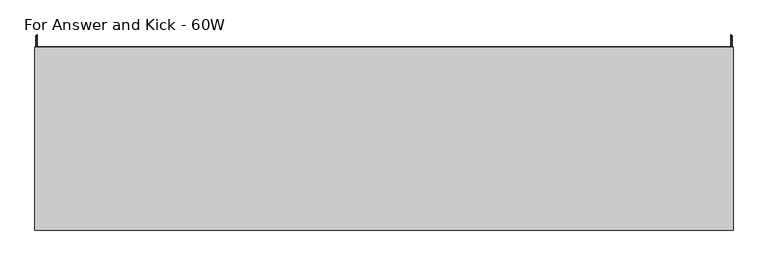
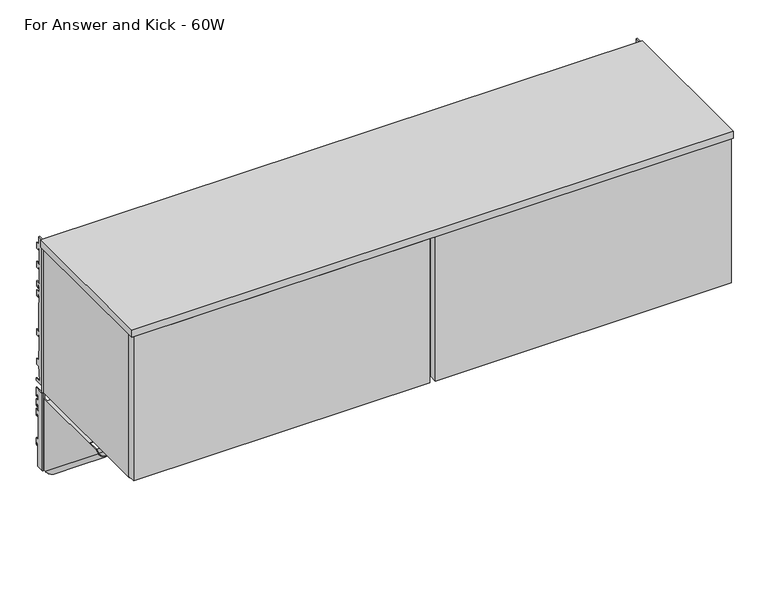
"""IFC4 building model written with IfcOpenShell, lengths in millimetres: furniture geometry, Steelcase - Universal Storage - In the Case Bin - Flat Front : For Answer and Kick - 60W."""

from ifc_helpers import new_model, si_unit, point, frame, frame_2d, origin, place, context, project, spatial, polyline, circle_curve, ellipse_curve, trimmed, segment, composite_curve, outline, extrude, faceted_brep, source, transform, mapped, element, save
from ifc_brep_helpers import plane_surface, cylinder_surface, revolved_surface, advanced_brep


def for_answer_and_kick_60w_798c4a98(model_context):
    return source(origin(), model_context, "Body", "SolidModel", [
        advanced_brep(
        [(4.0894, 24.9864881, 1247.9655), (4.0894, 1.1327479, 1247.9655), (4.0894, 1.1203386, 1040.9809), (4.0894, 17.3410881, 1040.9809), (4.0894, 17.3410881, 1101.1280822), (4.0894, 21.4050888, 1101.1280822), (4.0894, 21.4050888, 1094.7781064), (4.0894, 24.9864881, 1094.7781064), (4.0894, 24.9864881, 1113.0407271), (4.0894, 14.7756879, 1113.0407271), (4.0894, 14.7756879, 1179.6141345), (4.0894, 18.8396885, 1179.6141345), (4.0894, 18.8396885, 1173.264086), (4.0894, 24.9864881, 1173.264086), (4.0894, 24.9864881, 1191.5267068), (4.0894, 14.7756879, 1191.5267068), (4.0894, 14.7756879, 1205.7761277), (4.0894, 18.8396885, 1205.7761277), (4.0894, 18.8396885, 1199.4260793), (4.0894, 24.9864881, 1199.4260793), (4.0894, 24.9864881, 1217.6887), (4.0894, 14.7756879, 1217.6887), (4.0894, 14.7756879, 1231.9381209), (4.0894, 18.8396885, 1231.9381209), (4.0894, 18.8396885, 1225.5880725), (4.0894, 24.9864881, 1225.5880725), (2.1844, 24.9864881, 1247.9655), (2.1844, 24.9864881, 1225.5880725), (2.1844, 18.8396885, 1225.5880725), (2.1844, 18.8396885, 1231.9381209), (2.1844, 14.7756879, 1231.9381209), (2.1844, 14.7756879, 1217.6887), (2.1844, 24.9864881, 1217.6887), (2.1844, 24.9864881, 1199.4260793), (2.1844, 18.8396885, 1199.4260793), (2.1844, 18.8396885, 1205.7761277), (2.1844, 14.7756879, 1205.7761277), (2.1844, 14.7756879, 1191.5267068), (2.1844, 24.9864881, 1191.5267068), (2.1844, 24.9864881, 1173.264086), (2.1844, 18.8396885, 1173.264086), (2.1844, 18.8396885, 1179.6141345), (2.1844, 14.7756879, 1179.6141345), (2.1844, 14.7756879, 1113.0407271), (2.1844, 24.9864881, 1113.0407271), (2.1844, 24.9864881, 1094.7781064), (2.1844, 21.4050888, 1094.7781064), (2.1844, 21.4050888, 1101.1280822), (2.1844, 17.3410881, 1101.1280822), (2.1844, 17.3410881, 1040.9809), (2.1844, -0.7757522, 1040.9809), (2.1844, -0.7757522, 1247.9655), (4.4891598, -3.080512, 1247.9655), (8.1026, -3.080512, 1247.9655), (8.1026, -1.7838863, 1247.9655), (7.4942256, -1.175512, 1247.9655), (6.3852506, -1.175512, 1247.9655), (6.3852506, -1.175512, 1040.9809), (7.4942256, -1.175512, 1040.9809), (8.1026, -1.7838863, 1040.9809), (8.1026, -3.080512, 1040.9809), (4.4891598, -3.080512, 1040.9809)],
        [
            (0, 1),
            (1, 2),
            (2, 3),
            (3, 4),
            (4, 5),
            (5, 6),
            (6, 7),
            (7, 8),
            (8, 9),
            (9, 10),
            (10, 11),
            (11, 12),
            (12, 13),
            (13, 14),
            (14, 15),
            (15, 16),
            (16, 17),
            (17, 18),
            (18, 19),
            (19, 20),
            (20, 21),
            (21, 22),
            (22, 23),
            (23, 24),
            (24, 25),
            (25, 0),
            (26, 27),
            (27, 28),
            (28, 29),
            (29, 30),
            (30, 31),
            (31, 32),
            (32, 33),
            (33, 34),
            (34, 35),
            (35, 36),
            (36, 37),
            (37, 38),
            (38, 39),
            (39, 40),
            (40, 41),
            (41, 42),
            (42, 43),
            (43, 44),
            (44, 45),
            (45, 46),
            (46, 47),
            (47, 48),
            (48, 49),
            (49, 50),
            (50, 51),
            (51, 26),
            (0, 26),
            (51, 52, circle_curve(frame((4.4891598, -0.7757522, 1247.9655), z_axis=(0.0, 0.0, 1.0), x_axis=(1.0, 0.0, 0.0)), 2.3047598)),
            (52, 53),
            (53, 54),
            (54, 55, circle_curve(frame((7.4942256, -1.7838863, 1247.9655), z_axis=(0.0, 0.0, 1.0), x_axis=(1.0, 0.0, 0.0)), 0.6083744)),
            (55, 56),
            (56, 1, circle_curve(frame((6.3852506, 1.1203386, 1247.9655), z_axis=(0.0, 0.0, -1.0), x_axis=(1.0, 0.0, 0.0)), 2.2958506)),
            (2, 57, circle_curve(frame((6.3852506, 1.1203386, 1040.9809), z_axis=(0.0, 0.0, 1.0), x_axis=(1.0, 0.0, 0.0)), 2.2958506)),
            (57, 58),
            (58, 59, circle_curve(frame((7.4942256, -1.7838863, 1040.9809), z_axis=(0.0, 0.0, -1.0), x_axis=(1.0, 0.0, 0.0)), 0.6083744)),
            (59, 60),
            (60, 61),
            (61, 50, circle_curve(frame((4.4891598, -0.7757522, 1040.9809), z_axis=(0.0, 0.0, -1.0), x_axis=(1.0, 0.0, 0.0)), 2.3047598)),
            (49, 3),
            (48, 4),
            (47, 5),
            (46, 6),
            (45, 7),
            (44, 8),
            (43, 9),
            (42, 10),
            (41, 11),
            (40, 12),
            (39, 13),
            (38, 14),
            (37, 15),
            (36, 16),
            (35, 17),
            (34, 18),
            (33, 19),
            (32, 20),
            (31, 21),
            (30, 22),
            (29, 23),
            (28, 24),
            (27, 25),
            (61, 52),
            (60, 53),
            (59, 54),
            (58, 55),
            (57, 56),
        ],
        [
            plane_surface(frame((4.0894, 1.241405, 1247.9655), z_axis=(1.0, 0.0, 0.0), x_axis=(0.0, -1.0, 0.0))),
            plane_surface(frame((2.1844, 1.241405, 1247.9655), z_axis=(-1.0, 0.0, 0.0), x_axis=(0.0, 1.0, 0.0))),
            plane_surface(frame((4.0894, 24.9864881, 1247.9655), z_axis=(0.0, 0.0, 1.0), x_axis=(-1.0, 0.0, 0.0))),
            plane_surface(frame((4.0894, 1.1327479, 1040.9809), z_axis=(0.0, 0.0, -1.0), x_axis=(-1.0, 0.0, 0.0))),
            plane_surface(frame((4.0894, 17.3410881, 1040.9809), z_axis=(0.0, 1.0, 0.0), x_axis=(-1.0, 0.0, 0.0))),
            plane_surface(frame((4.0894, 17.3410881, 1101.1280822), z_axis=(0.0, 0.0, -1.0), x_axis=(-1.0, 0.0, 0.0))),
            plane_surface(frame((4.0894, 21.4050888, 1101.1280822), z_axis=(0.0, -1.0, 0.0), x_axis=(-1.0, 0.0, 0.0))),
            plane_surface(frame((4.0894, 21.4050888, 1094.7781064), z_axis=(0.0, 0.0, -1.0), x_axis=(-1.0, 0.0, 0.0))),
            plane_surface(frame((4.0894, 24.9864881, 1094.7781064), z_axis=(0.0, 1.0, 0.0), x_axis=(-1.0, 0.0, 0.0))),
            plane_surface(frame((4.0894, 24.9864881, 1113.0407271), z_axis=(0.0, 0.0, 1.0), x_axis=(-1.0, 0.0, 0.0))),
            plane_surface(frame((4.0894, 14.7756879, 1113.0407271), z_axis=(0.0, 1.0, 0.0), x_axis=(-1.0, 0.0, 0.0))),
            plane_surface(frame((4.0894, 14.7756879, 1179.6141345), z_axis=(0.0, 0.0, -1.0), x_axis=(-1.0, 0.0, 0.0))),
            plane_surface(frame((4.0894, 18.8396885, 1179.6141345), z_axis=(0.0, -1.0, 0.0), x_axis=(-1.0, 0.0, 0.0))),
            plane_surface(frame((4.0894, 18.8396885, 1173.264086), z_axis=(0.0, 0.0, -1.0), x_axis=(-1.0, 0.0, 0.0))),
            plane_surface(frame((4.0894, 24.9864881, 1173.264086), z_axis=(0.0, 1.0, 0.0), x_axis=(-1.0, 0.0, 0.0))),
            plane_surface(frame((4.0894, 24.9864881, 1191.5267068), z_axis=(0.0, 0.0, 1.0), x_axis=(-1.0, 0.0, 0.0))),
            plane_surface(frame((4.0894, 14.7756879, 1191.5267068), z_axis=(0.0, 1.0, 0.0), x_axis=(-1.0, 0.0, 0.0))),
            plane_surface(frame((4.0894, 14.7756879, 1205.7761277), z_axis=(0.0, 0.0, -1.0), x_axis=(-1.0, 0.0, 0.0))),
            plane_surface(frame((4.0894, 18.8396885, 1205.7761277), z_axis=(0.0, -1.0, 0.0), x_axis=(-1.0, 0.0, 0.0))),
            plane_surface(frame((4.0894, 18.8396885, 1199.4260793), z_axis=(0.0, 0.0, -1.0), x_axis=(-1.0, 0.0, 0.0))),
            plane_surface(frame((4.0894, 24.9864881, 1199.4260793), z_axis=(0.0, 1.0, 0.0), x_axis=(-1.0, 0.0, 0.0))),
            plane_surface(frame((4.0894, 24.9864881, 1217.6887), z_axis=(0.0, 0.0, 1.0), x_axis=(-1.0, 0.0, 0.0))),
            plane_surface(frame((4.0894, 14.7756879, 1217.6887), z_axis=(0.0, 1.0, 0.0), x_axis=(-1.0, 0.0, 0.0))),
            plane_surface(frame((4.0894, 14.7756879, 1231.9381209), z_axis=(0.0, 0.0, -1.0), x_axis=(-1.0, 0.0, 0.0))),
            plane_surface(frame((4.0894, 18.8396885, 1231.9381209), z_axis=(0.0, -1.0, 0.0), x_axis=(-1.0, 0.0, 0.0))),
            plane_surface(frame((4.0894, 18.8396885, 1225.5880725), z_axis=(0.0, 0.0, -1.0), x_axis=(-1.0, 0.0, 0.0))),
            plane_surface(frame((4.0894, 24.9864881, 1225.5880725), z_axis=(0.0, 1.0, 0.0), x_axis=(-1.0, 0.0, 0.0))),
            cylinder_surface(frame((4.4891598, -0.7757522, 1040.9809), z_axis=(0.0, 0.0, 1.0), x_axis=(1.0, 0.0, 0.0)), 2.3047598),
            plane_surface(frame((4.4891598, -3.080512, 1247.9655), z_axis=(0.0, -1.0, 0.0), x_axis=(0.0, 0.0, -1.0))),
            plane_surface(frame((8.1026, -3.080512, 1247.9655), z_axis=(1.0, 0.0, 0.0), x_axis=(0.0, 0.0, -1.0))),
            cylinder_surface(frame((7.4942256, -1.7838863, 1040.9809), z_axis=(0.0, 0.0, 1.0), x_axis=(1.0, 0.0, 0.0)), 0.6083744),
            plane_surface(frame((7.4942256, -1.175512, 1247.9655), z_axis=(0.0, 1.0, 0.0), x_axis=(0.0, 0.0, -1.0))),
            revolved_surface(polyline([(8.6811012, 1.1203386, 1040.9809), (8.6811012, 1.1203386, 1247.9655)]), (6.3852506, 1.1203386, 1040.9809), (0.0, 0.0, -1.0)),
        ],
        [
            (0, [[1, 2, 3, 4, 5, 6, 7, 8, 9, 10, 11, 12, 13, 14, 15, 16, 17, 18, 19, 20, 21, 22, 23, 24, 25, 26]]),
            (1, [[27, 28, 29, 30, 31, 32, 33, 34, 35, 36, 37, 38, 39, 40, 41, 42, 43, 44, 45, 46, 47, 48, 49, 50, 51, 52]]),
            (2, [[-1, 53, -52, 54, 55, 56, 57, 58, 59]]),
            (3, [[-3, 60, 61, 62, 63, 64, 65, -50, 66]]),
            (4, [[-4, -66, -49, 67]]),
            (5, [[-5, -67, -48, 68]]),
            (6, [[-6, -68, -47, 69]]),
            (7, [[-7, -69, -46, 70]]),
            (8, [[-8, -70, -45, 71]]),
            (9, [[-9, -71, -44, 72]]),
            (10, [[-10, -72, -43, 73]]),
            (11, [[-11, -73, -42, 74]]),
            (12, [[-12, -74, -41, 75]]),
            (13, [[-13, -75, -40, 76]]),
            (14, [[-14, -76, -39, 77]]),
            (15, [[-15, -77, -38, 78]]),
            (16, [[-16, -78, -37, 79]]),
            (17, [[-17, -79, -36, 80]]),
            (18, [[-18, -80, -35, 81]]),
            (19, [[-19, -81, -34, 82]]),
            (20, [[-20, -82, -33, 83]]),
            (21, [[-21, -83, -32, 84]]),
            (22, [[-22, -84, -31, 85]]),
            (23, [[-23, -85, -30, 86]]),
            (24, [[-24, -86, -29, 87]]),
            (25, [[-25, -87, -28, 88]]),
            (26, [[-26, -88, -27, -53]]),
            (27, [[-54, -51, -65, 89]]),
            (28, [[-55, -89, -64, 90]]),
            (29, [[-56, -90, -63, 91]]),
            (30, [[-57, -91, -62, 92]]),
            (31, [[-58, -92, -61, 93]]),
            (32, [[-59, -93, -60, -2]]),
        ],
    ),
        advanced_brep(
        [(1519.9106, 24.9864881, 1247.9655), (1519.9106, 24.9864881, 1225.5880725), (1519.9106, 18.8396885, 1225.5880725), (1519.9106, 18.8396885, 1231.9381209), (1519.9106, 14.7756879, 1231.9381209), (1519.9106, 14.7756879, 1217.6887), (1519.9106, 24.9864881, 1217.6887), (1519.9106, 24.9864881, 1199.4260793), (1519.9106, 18.8396885, 1199.4260793), (1519.9106, 18.8396885, 1205.7761277), (1519.9106, 14.7756879, 1205.7761277), (1519.9106, 14.7756879, 1191.5267068), (1519.9106, 24.9864881, 1191.5267068), (1519.9106, 24.9864881, 1173.264086), (1519.9106, 18.8396885, 1173.264086), (1519.9106, 18.8396885, 1179.6141345), (1519.9106, 14.7756879, 1179.6141345), (1519.9106, 14.7756879, 1113.0407271), (1519.9106, 24.9864881, 1113.0407271), (1519.9106, 24.9864881, 1094.7781064), (1519.9106, 21.4050888, 1094.7781064), (1519.9106, 21.4050888, 1101.1280822), (1519.9106, 17.3410881, 1101.1280822), (1519.9106, 17.3410881, 1040.9809), (1519.9106, 1.1327479, 1040.9809), (1519.9106, 1.1203386, 1247.9655), (1521.8156, -0.7757522, 1247.9655), (1521.8156, -0.7757522, 1040.9809), (1521.8156, 17.3410881, 1040.9809), (1521.8156, 17.3410881, 1101.1280822), (1521.8156, 21.4050888, 1101.1280822), (1521.8156, 21.4050888, 1094.7781064), (1521.8156, 24.9864881, 1094.7781064), (1521.8156, 24.9864881, 1113.0407271), (1521.8156, 14.7756879, 1113.0407271), (1521.8156, 14.7756879, 1179.6141345), (1521.8156, 18.8396885, 1179.6141345), (1521.8156, 18.8396885, 1173.264086), (1521.8156, 24.9864881, 1173.264086), (1521.8156, 24.9864881, 1191.5267068), (1521.8156, 14.7756879, 1191.5267068), (1521.8156, 14.7756879, 1205.7761277), (1521.8156, 18.8396885, 1205.7761277), (1521.8156, 18.8396885, 1199.4260793), (1521.8156, 24.9864881, 1199.4260793), (1521.8156, 24.9864881, 1217.6887), (1521.8156, 14.7756879, 1217.6887), (1521.8156, 14.7756879, 1231.9381209), (1521.8156, 18.8396885, 1231.9381209), (1521.8156, 18.8396885, 1225.5880725), (1521.8156, 24.9864881, 1225.5880725), (1521.8156, 24.9864881, 1247.9655), (1519.5108402, -3.080512, 1040.9809), (1516.1006, -3.080512, 1040.9809), (1516.1006, -1.7838863, 1040.9809), (1516.7089744, -1.175512, 1040.9809), (1517.6147494, -1.175512, 1040.9809), (1517.6147494, -1.175512, 1247.9655), (1516.7089744, -1.175512, 1247.9655), (1516.1006, -1.7838863, 1247.9655), (1516.1006, -3.080512, 1247.9655), (1519.5108402, -3.080512, 1247.9655)],
        [
            (0, 1),
            (1, 2),
            (2, 3),
            (3, 4),
            (4, 5),
            (5, 6),
            (6, 7),
            (7, 8),
            (8, 9),
            (9, 10),
            (10, 11),
            (11, 12),
            (12, 13),
            (13, 14),
            (14, 15),
            (15, 16),
            (16, 17),
            (17, 18),
            (18, 19),
            (19, 20),
            (20, 21),
            (21, 22),
            (22, 23),
            (23, 24),
            (24, 25),
            (25, 0),
            (26, 27),
            (27, 28),
            (28, 29),
            (29, 30),
            (30, 31),
            (31, 32),
            (32, 33),
            (33, 34),
            (34, 35),
            (35, 36),
            (36, 37),
            (37, 38),
            (38, 39),
            (39, 40),
            (40, 41),
            (41, 42),
            (42, 43),
            (43, 44),
            (44, 45),
            (45, 46),
            (46, 47),
            (47, 48),
            (48, 49),
            (49, 50),
            (50, 51),
            (51, 26),
            (0, 51),
            (50, 1),
            (49, 2),
            (48, 3),
            (47, 4),
            (46, 5),
            (45, 6),
            (44, 7),
            (43, 8),
            (42, 9),
            (41, 10),
            (40, 11),
            (39, 12),
            (38, 13),
            (37, 14),
            (36, 15),
            (35, 16),
            (34, 17),
            (33, 18),
            (32, 19),
            (31, 20),
            (30, 21),
            (29, 22),
            (28, 23),
            (27, 52, circle_curve(frame((1519.5108402, -0.7757522, 1040.9809), z_axis=(0.0, 0.0, -1.0), x_axis=(0.0, 1.0, 0.0)), 2.3047598)),
            (52, 53),
            (53, 54),
            (54, 55, circle_curve(frame((1516.7089744, -1.7838863, 1040.9809), z_axis=(0.0, 0.0, -1.0), x_axis=(0.0, 1.0, 0.0)), 0.6083744)),
            (55, 56),
            (56, 24, circle_curve(frame((1517.6147494, 1.1203386, 1040.9809), z_axis=(0.0, 0.0, 1.0), x_axis=(0.0, 1.0, 0.0)), 2.2958506)),
            (25, 57, circle_curve(frame((1517.6147494, 1.1203386, 1247.9655), z_axis=(0.0, 0.0, -1.0), x_axis=(0.0, 1.0, 0.0)), 2.2958506)),
            (57, 58),
            (58, 59, circle_curve(frame((1516.7089744, -1.7838863, 1247.9655), z_axis=(0.0, 0.0, 1.0), x_axis=(0.0, 1.0, 0.0)), 0.6083744)),
            (59, 60),
            (60, 61),
            (61, 26, circle_curve(frame((1519.5108402, -0.7757522, 1247.9655), z_axis=(0.0, 0.0, 1.0), x_axis=(0.0, 1.0, 0.0)), 2.3047598)),
            (56, 57),
            (55, 58),
            (54, 59),
            (53, 60),
            (52, 61),
        ],
        [
            plane_surface(frame((1519.9106, 24.9864881, 1247.9655), z_axis=(-1.0, 0.0, 0.0), x_axis=(0.0, 0.0, -1.0))),
            plane_surface(frame((1521.8156, 24.9864881, 1247.9655), z_axis=(1.0, 0.0, 0.0), x_axis=(0.0, 0.0, 1.0))),
            plane_surface(frame((1519.9106, 24.9864881, 1247.9655), z_axis=(0.0, 1.0, 0.0), x_axis=(1.0, 0.0, 0.0))),
            plane_surface(frame((1519.9106, 24.9864881, 1225.5880725), z_axis=(0.0, 0.0, -1.0), x_axis=(1.0, 0.0, 0.0))),
            plane_surface(frame((1519.9106, 18.8396885, 1225.5880725), z_axis=(0.0, -1.0, 0.0), x_axis=(1.0, 0.0, 0.0))),
            plane_surface(frame((1519.9106, 18.8396885, 1231.9381209), z_axis=(0.0, 0.0, -1.0), x_axis=(1.0, 0.0, 0.0))),
            plane_surface(frame((1519.9106, 14.7756879, 1231.9381209), z_axis=(0.0, 1.0, 0.0), x_axis=(1.0, 0.0, 0.0))),
            plane_surface(frame((1519.9106, 14.7756879, 1217.6887), z_axis=(0.0, 0.0, 1.0), x_axis=(1.0, 0.0, 0.0))),
            plane_surface(frame((1519.9106, 24.9864881, 1217.6887), z_axis=(0.0, 1.0, 0.0), x_axis=(1.0, 0.0, 0.0))),
            plane_surface(frame((1519.9106, 24.9864881, 1199.4260793), z_axis=(0.0, 0.0, -1.0), x_axis=(1.0, 0.0, 0.0))),
            plane_surface(frame((1519.9106, 18.8396885, 1199.4260793), z_axis=(0.0, -1.0, 0.0), x_axis=(1.0, 0.0, 0.0))),
            plane_surface(frame((1519.9106, 18.8396885, 1205.7761277), z_axis=(0.0, 0.0, -1.0), x_axis=(1.0, 0.0, 0.0))),
            plane_surface(frame((1519.9106, 14.7756879, 1205.7761277), z_axis=(0.0, 1.0, 0.0), x_axis=(1.0, 0.0, 0.0))),
            plane_surface(frame((1519.9106, 14.7756879, 1191.5267068), z_axis=(0.0, 0.0, 1.0), x_axis=(1.0, 0.0, 0.0))),
            plane_surface(frame((1519.9106, 24.9864881, 1191.5267068), z_axis=(0.0, 1.0, 0.0), x_axis=(1.0, 0.0, 0.0))),
            plane_surface(frame((1519.9106, 24.9864881, 1173.264086), z_axis=(0.0, 0.0, -1.0), x_axis=(1.0, 0.0, 0.0))),
            plane_surface(frame((1519.9106, 18.8396885, 1173.264086), z_axis=(0.0, -1.0, 0.0), x_axis=(1.0, 0.0, 0.0))),
            plane_surface(frame((1519.9106, 18.8396885, 1179.6141345), z_axis=(0.0, 0.0, -1.0), x_axis=(1.0, 0.0, 0.0))),
            plane_surface(frame((1519.9106, 14.7756879, 1179.6141345), z_axis=(0.0, 1.0, 0.0), x_axis=(1.0, 0.0, 0.0))),
            plane_surface(frame((1519.9106, 14.7756879, 1113.0407271), z_axis=(0.0, 0.0, 1.0), x_axis=(1.0, 0.0, 0.0))),
            plane_surface(frame((1519.9106, 24.9864881, 1113.0407271), z_axis=(0.0, 1.0, 0.0), x_axis=(1.0, 0.0, 0.0))),
            plane_surface(frame((1519.9106, 24.9864881, 1094.7781064), z_axis=(0.0, 0.0, -1.0), x_axis=(1.0, 0.0, 0.0))),
            plane_surface(frame((1519.9106, 21.4050888, 1094.7781064), z_axis=(0.0, -1.0, 0.0), x_axis=(1.0, 0.0, 0.0))),
            plane_surface(frame((1519.9106, 21.4050888, 1101.1280822), z_axis=(0.0, 0.0, -1.0), x_axis=(1.0, 0.0, 0.0))),
            plane_surface(frame((1519.9106, 17.3410881, 1101.1280822), z_axis=(0.0, 1.0, 0.0), x_axis=(1.0, 0.0, 0.0))),
            plane_surface(frame((1519.9106, 17.3410881, 1040.9809), z_axis=(0.0, 0.0, -1.0), x_axis=(1.0, 0.0, 0.0))),
            plane_surface(frame((1519.9106, 1.1327479, 1247.9655), z_axis=(0.0, 0.0, 1.0), x_axis=(1.0, 0.0, 0.0))),
            revolved_surface(polyline([(1517.6147494, 3.4161892, 1040.9809), (1517.6147494, 3.4161892, 1247.9655)]), (1517.6147494, 1.1203386, 1040.9809), (0.0, 0.0, -1.0)),
            plane_surface(frame((1517.6147494, -1.175512, 1247.9655), z_axis=(0.0, 1.0, 0.0), x_axis=(0.0, 0.0, -1.0))),
            cylinder_surface(frame((1516.7089744, -1.7838863, 1040.9809), z_axis=(0.0, 0.0, 1.0), x_axis=(0.0, 1.0, 0.0)), 0.6083744),
            plane_surface(frame((1516.1006, -1.7838863, 1247.9655), z_axis=(-1.0, 0.0, 0.0), x_axis=(0.0, 0.0, -1.0))),
            plane_surface(frame((1516.1006, -3.080512, 1247.9655), z_axis=(0.0, -1.0, 0.0), x_axis=(0.0, 0.0, -1.0))),
            cylinder_surface(frame((1519.5108402, -0.7757522, 1040.9809), z_axis=(0.0, 0.0, 1.0), x_axis=(0.0, 1.0, 0.0)), 2.3047598),
        ],
        [
            (0, [[1, 2, 3, 4, 5, 6, 7, 8, 9, 10, 11, 12, 13, 14, 15, 16, 17, 18, 19, 20, 21, 22, 23, 24, 25, 26]]),
            (1, [[27, 28, 29, 30, 31, 32, 33, 34, 35, 36, 37, 38, 39, 40, 41, 42, 43, 44, 45, 46, 47, 48, 49, 50, 51, 52]]),
            (2, [[-1, 53, -51, 54]]),
            (3, [[-2, -54, -50, 55]]),
            (4, [[-3, -55, -49, 56]]),
            (5, [[-4, -56, -48, 57]]),
            (6, [[-5, -57, -47, 58]]),
            (7, [[-6, -58, -46, 59]]),
            (8, [[-7, -59, -45, 60]]),
            (9, [[-8, -60, -44, 61]]),
            (10, [[-9, -61, -43, 62]]),
            (11, [[-10, -62, -42, 63]]),
            (12, [[-11, -63, -41, 64]]),
            (13, [[-12, -64, -40, 65]]),
            (14, [[-13, -65, -39, 66]]),
            (15, [[-14, -66, -38, 67]]),
            (16, [[-15, -67, -37, 68]]),
            (17, [[-16, -68, -36, 69]]),
            (18, [[-17, -69, -35, 70]]),
            (19, [[-18, -70, -34, 71]]),
            (20, [[-19, -71, -33, 72]]),
            (21, [[-20, -72, -32, 73]]),
            (22, [[-21, -73, -31, 74]]),
            (23, [[-22, -74, -30, 75]]),
            (24, [[-23, -75, -29, 76]]),
            (25, [[-24, -76, -28, 77, 78, 79, 80, 81, 82]]),
            (26, [[-26, 83, 84, 85, 86, 87, 88, -52, -53]]),
            (27, [[-83, -25, -82, 89]]),
            (28, [[-84, -89, -81, 90]]),
            (29, [[-85, -90, -80, 91]]),
            (30, [[-86, -91, -79, 92]]),
            (31, [[-87, -92, -78, 93]]),
            (32, [[-88, -93, -77, -27]]),
        ],
    ),
        advanced_brep(
        [(1494.9424, -230.0833372, 1233.8431), (1494.9424, 1.1327479, 1046.6079738), (1492.8342, 1.1327479, 1046.6079738), (1492.8342, -230.0833372, 1233.8431), (1492.8342, 1.1327479, 1040.9809), (1492.8342, -7.7654502, 1040.9809), (1492.8342, -240.6555763, 1229.5716381), (1516.1006, -7.7654502, 1040.9809), (1516.1006, -240.6555763, 1229.5716381), (1516.1006, 1.1327479, 1040.9809), (1516.1006, 1.1327479, 1046.6079738), (1516.1006, -3.080512, 1050.019805), (1516.1006, -3.080512, 1233.8431), (1516.1006, -230.0833372, 1233.8431), (1513.9924009, 1.1327479, 1046.6079738), (1513.9924009, -3.080512, 1050.019805), (1513.9924009, -7.7654502, 1040.9809), (1513.9924009, -240.6555763, 1229.5716381), (1513.9924009, -230.0833372, 1233.8431), (1513.9924009, -200.311512, 1233.8431), (1513.9924009, -200.311512, 1233.0049163), (1513.9924009, -14.0787123, 1233.0049163), (1513.9924009, -14.0787123, 1233.8431), (1513.9924009, -3.080512, 1233.8431), (1513.9924009, 1.1327479, 1040.9809), (1494.9424, -7.7654502, 1040.9809), (1494.9424, -240.6555763, 1229.5716381), (1494.9424, 1.1327479, 1040.9809), (1485.0617978, -200.311512, 1233.8431), (1485.0617978, -200.311512, 1252.2581016), (1484.2236, -200.311512, 1252.2581016), (1484.2236, -200.311512, 1233.0049163), (1484.2236, -82.5825138, 1252.2581016), (1485.0617978, -82.5825138, 1252.2581016), (1485.0617978, -82.5825138, 1233.8431), (1484.2236, -82.5825138, 1233.8431), (1484.2236, -14.0787123, 1233.8431), (1484.2236, -14.0787123, 1233.0049163)],
        [
            (0, 1),
            (1, 2),
            (2, 3),
            (3, 0),
            (2, 4),
            (4, 5),
            (5, 6),
            (6, 3),
            (5, 7, ellipse_curve(frame((1504.4674, -7.7654502, 1040.9809), z_axis=(0.0, 0.0, 1.0), x_axis=(0.0, -1.0, 0.0)), 18.4853359, 11.6332)),
            (7, 8),
            (8, 6, ellipse_curve(frame((1504.4674, -240.6555763, 1229.5716381), z_axis=(0.0, 0.374606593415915, -0.9271838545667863), x_axis=(0.0, -0.9271838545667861, -0.3746065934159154)), 13.3008659, 11.6332)),
            (7, 9),
            (9, 10),
            (10, 11),
            (11, 12),
            (12, 13),
            (13, 8),
            (10, 14),
            (14, 15),
            (15, 11),
            (16, 17),
            (17, 18),
            (18, 19),
            (19, 20),
            (20, 21),
            (21, 22),
            (22, 23),
            (23, 15),
            (14, 24),
            (24, 16),
            (16, 25, ellipse_curve(frame((1504.4674005, -7.7654502, 1040.9809), z_axis=(0.0, 0.0, -1.0), x_axis=(0.0, 1.0, 0.0)), 15.135374, 9.5250005)),
            (25, 26),
            (26, 17, ellipse_curve(frame((1504.4674005, -240.6555763, 1229.5716381), z_axis=(0.0, -0.374606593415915, 0.9271838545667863), x_axis=(0.0, 0.9271838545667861, 0.3746065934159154)), 10.8904475, 9.5250005)),
            (0, 26),
            (25, 27),
            (27, 1),
            (13, 18),
            (24, 9),
            (4, 27),
            (28, 29),
            (29, 30),
            (30, 31),
            (31, 20),
            (19, 28),
            (32, 33),
            (33, 34),
            (34, 35),
            (35, 32),
            (35, 36),
            (36, 37),
            (37, 31),
            (30, 32),
            (28, 34),
            (33, 29),
            (36, 22),
            (21, 37),
            (12, 23),
        ],
        [
            plane_surface(frame((1494.9424, -241.2702093, 1242.902052), z_axis=(0.0, 0.6293204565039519, 0.7771459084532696), x_axis=(0.0, 0.7771459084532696, -0.6293204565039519))),
            plane_surface(frame((1492.8342, -241.2702093, 1242.902052), z_axis=(-1.0, 0.0, 0.0), x_axis=(0.0, 0.7771459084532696, -0.6293204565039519))),
            cylinder_surface(frame((1504.4674, 5.728998, 1030.0533094), z_axis=(0.0, -0.7771459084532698, 0.6293204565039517), x_axis=(0.0, 0.6293204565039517, 0.7771459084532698)), 11.6332),
            plane_surface(frame((1516.1006, -247.5463438, 1235.1516726), z_axis=(1.0, 0.0, 0.0), x_axis=(0.0, 0.7771459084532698, -0.6293204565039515))),
            plane_surface(frame((1516.1006, -241.2702093, 1242.902052), z_axis=(0.0, 0.6293204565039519, 0.7771459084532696), x_axis=(0.0, 0.7771459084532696, -0.6293204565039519))),
            plane_surface(frame((1513.9924009, -241.2702093, 1242.902052), z_axis=(-1.0, 0.0, 0.0), x_axis=(0.0, 0.7771459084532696, -0.6293204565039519))),
            revolved_surface(polyline([(1504.4674005, 7.3699238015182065, 1040.980900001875), (1504.4674005, -238.76446812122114, 1240.2966349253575)]), (1504.4674005, 5.728998, 1030.0533094), (0.0, 0.7771459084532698, -0.6293204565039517)),
            plane_surface(frame((1494.9424, -247.5463438, 1235.1516726), z_axis=(1.0, 0.0, 0.0), x_axis=(0.0, 0.7771459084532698, -0.6293204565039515))),
            plane_surface(frame((1524.0, -257.2236519, 1222.8777011), z_axis=(0.0, -0.374606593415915, 0.9271838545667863), x_axis=(-1.0, 0.0, 0.0))),
            plane_surface(frame((1524.0, 1.1327479, 1040.9809), z_axis=(0.0, 0.0, -1.0), x_axis=(-1.0, 0.0, 0.0))),
            plane_surface(frame((1524.0, 1.1327479, 1053.6809), z_axis=(0.0, 1.0, 0.0), x_axis=(-1.0, 0.0, 0.0))),
            plane_surface(frame((1484.2236, -200.311512, 1252.2581016), z_axis=(0.0, -1.0, 0.0), x_axis=(0.0, 0.0, -1.0))),
            plane_surface(frame((1484.2236, -82.5825138, 1252.2581016), z_axis=(0.0, 1.0, 0.0), x_axis=(0.0, 0.0, 1.0))),
            plane_surface(frame((1484.2236, -200.311512, 1252.2581016), z_axis=(-1.0, 0.0, 0.0), x_axis=(0.0, 1.0, 0.0))),
            plane_surface(frame((1485.0617978, -200.311512, 1233.8431), z_axis=(1.0, 0.0, 0.0), x_axis=(0.0, 1.0, 0.0))),
            plane_surface(frame((1485.0617978, -200.311512, 1252.2581016), z_axis=(0.0, 0.0, 1.0), x_axis=(0.0, 1.0, 0.0))),
            plane_surface(frame((1484.2236, -14.0787123, 1233.8431), z_axis=(0.0, 1.0, 0.0), x_axis=(0.0, 0.0, 1.0))),
            plane_surface(frame((1484.2236, -200.311512, 1233.0049163), z_axis=(0.0, 0.0, -1.0), x_axis=(0.0, 1.0, 0.0))),
            plane_surface(frame((1516.1006, -200.311512, 1233.8431), z_axis=(0.0, 0.0, 1.0), x_axis=(0.0, 1.0, 0.0))),
            plane_surface(frame((1516.1006, -3.080512, 1050.019805), z_axis=(0.0, 1.0, 0.0), x_axis=(-1.0, 0.0, 0.0))),
        ],
        [
            (0, [[1, 2, 3, 4]]),
            (1, [[-3, 5, 6, 7, 8]]),
            (2, [[-7, 9, 10, 11]]),
            (3, [[-10, 12, 13, 14, 15, 16, 17]]),
            (4, [[18, 19, 20, -14]]),
            (5, [[21, 22, 23, 24, 25, 26, 27, 28, -19, 29, 30]]),
            (6, [[-21, 31, 32, 33]]),
            (7, [[-1, 34, -32, 35, 36]]),
            (8, [[-4, -8, -11, -17, 37, -22, -33, -34]]),
            (9, [[38, -12, -9, -6, 39, -35, -31, -30]]),
            (10, [[-38, -29, -18, -13]]),
            (10, [[-39, -5, -2, -36]]),
            (11, [[40, 41, 42, 43, -24, 44]]),
            (12, [[45, 46, 47, 48]]),
            (13, [[-48, 49, 50, 51, -42, 52]]),
            (14, [[-40, 53, -46, 54]]),
            (15, [[-41, -54, -45, -52]]),
            (16, [[-50, 55, -26, 56]]),
            (17, [[-51, -56, -25, -43]]),
            (18, [[57, -27, -55, -49, -47, -53, -44, -23, -37, -16]]),
            (19, [[-15, -20, -28, -57]]),
        ],
    ),
        advanced_brep(
        [(8.1026, -3.080512, 1050.019805), (8.1026, -3.080512, 1233.8431), (8.1026, -14.0787123, 1233.8431), (8.1026, -14.0787123, 1233.0049163), (8.1026, -200.311512, 1233.0049163), (8.1026, -200.311512, 1233.8431), (8.1026, -230.0833372, 1233.8431), (8.1026, -240.6555763, 1229.5716381), (8.1026, -7.7654502, 1040.9809), (8.1026, 1.1327479, 1040.9809), (8.1026, 1.1327479, 1046.6079738), (5.9944, -3.080512, 1233.8431), (5.9944, -3.080512, 1050.019805), (5.9944, 1.1327479, 1046.6079738), (5.9944, 1.1327479, 1040.9809), (5.9944, -7.7654502, 1040.9809), (5.9944, -240.6555763, 1229.5716381), (5.9944, -230.0833372, 1233.8431), (39.5732022, -200.311512, 1233.8431), (39.5732022, -82.5825138, 1233.8431), (40.4114, -82.5825138, 1233.8431), (40.4114, -14.0787123, 1233.8431), (29.2608, -7.7654502, 1040.9809), (29.2608, -240.6555763, 1229.5716381), (29.2608, 1.1327479, 1040.9809), (29.2608, 1.1327479, 1046.6079738), (29.2608, -230.0833372, 1233.8431), (27.1526009, 1.1327479, 1046.6079738), (27.1526009, -230.0833372, 1233.8431), (27.1526009, 1.1327479, 1040.9809), (27.1526009, -7.7654502, 1040.9809), (27.1526009, -240.6555763, 1229.5716381), (40.4114, -200.311512, 1233.0049163), (40.4114, -200.311512, 1252.2581016), (39.5732022, -200.311512, 1252.2581016), (40.4114, -14.0787123, 1233.0049163), (40.4114, -82.5825138, 1252.2581016), (39.5732022, -82.5825138, 1252.2581016)],
        [
            (0, 1),
            (1, 2),
            (2, 3),
            (3, 4),
            (4, 5),
            (5, 6),
            (6, 7),
            (7, 8),
            (8, 9),
            (9, 10),
            (10, 0),
            (11, 12),
            (12, 13),
            (13, 14),
            (14, 15),
            (15, 16),
            (16, 17),
            (17, 11),
            (17, 6),
            (5, 18),
            (18, 19),
            (19, 20),
            (20, 21),
            (21, 2),
            (1, 11),
            (0, 12),
            (10, 13),
            (15, 22, ellipse_curve(frame((17.6276, -7.7654502, 1040.9809), z_axis=(0.0, 0.0, 1.0), x_axis=(0.0, -1.0, 0.0)), 18.4853359, 11.6332)),
            (22, 23),
            (23, 16, ellipse_curve(frame((17.6276, -240.6555763, 1229.5716381), z_axis=(0.0, 0.374606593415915, -0.9271838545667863), x_axis=(0.0, -0.9271838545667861, -0.3746065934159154)), 13.3008659, 11.6332)),
            (22, 24),
            (24, 25),
            (25, 26),
            (26, 23),
            (25, 27),
            (27, 28),
            (28, 26),
            (27, 29),
            (29, 30),
            (30, 31),
            (31, 28),
            (7, 31, ellipse_curve(frame((17.6276005, -240.6555763, 1229.5716381), z_axis=(0.0, -0.374606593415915, 0.9271838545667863), x_axis=(0.0, 0.9271838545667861, 0.3746065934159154)), 10.8904475, 9.5250005)),
            (30, 8, ellipse_curve(frame((17.6276005, -7.7654502, 1040.9809), z_axis=(0.0, 0.0, -1.0), x_axis=(0.0, 1.0, 0.0)), 15.135374, 9.5250005)),
            (14, 9),
            (29, 24),
            (4, 32),
            (32, 33),
            (33, 34),
            (34, 18),
            (21, 35),
            (35, 3),
            (35, 32),
            (20, 36),
            (36, 33),
            (19, 37),
            (37, 36),
            (37, 34),
        ],
        [
            plane_surface(frame((8.1026, -230.0833372, 1233.8431), z_axis=(1.0, 0.0, 0.0), x_axis=(0.0, -1.0, 0.0))),
            plane_surface(frame((5.9944, -230.0833372, 1233.8431), z_axis=(-1.0, 0.0, 0.0), x_axis=(0.0, 1.0, 0.0))),
            plane_surface(frame((8.1026, -3.080512, 1233.8431), z_axis=(0.0, 0.0, 1.0), x_axis=(-1.0, 0.0, 0.0))),
            plane_surface(frame((8.1026, -3.080512, 1050.019805), z_axis=(0.0, 1.0, 0.0), x_axis=(-1.0, 0.0, 0.0))),
            plane_surface(frame((8.1026, -241.2702093, 1242.902052), z_axis=(0.0, 0.6293204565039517, 0.7771459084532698), x_axis=(0.0, 0.7771459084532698, -0.6293204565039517))),
            cylinder_surface(frame((17.6276, 5.728998, 1030.0533094), z_axis=(0.0, -0.7771459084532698, 0.6293204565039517), x_axis=(1.0, 0.0, 0.0)), 11.6332),
            plane_surface(frame((29.2608, -247.5463438, 1235.1516726), z_axis=(1.0000000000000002, 0.0, 0.0), x_axis=(0.0, 0.7771459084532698, -0.6293204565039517))),
            plane_surface(frame((29.2608, -241.2702093, 1242.902052), z_axis=(0.0, 0.6293204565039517, 0.7771459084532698), x_axis=(0.0, 0.7771459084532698, -0.6293204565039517))),
            plane_surface(frame((27.1526009, -241.2702093, 1242.902052), z_axis=(-1.0000000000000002, 0.0, 0.0), x_axis=(0.0, 0.7771459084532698, -0.6293204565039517))),
            revolved_surface(polyline([(27.152601, 1.375646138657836, 1033.5785848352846), (27.152601, -244.75874578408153, 1232.8943197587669)]), (17.6276005, 5.728998, 1030.0533094), (0.0, 0.7771459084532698, -0.6293204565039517)),
            plane_surface(frame((1524.0, -257.2236519, 1222.8777011), z_axis=(0.0, -0.374606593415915, 0.9271838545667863), x_axis=(-1.0, 0.0, 0.0))),
            plane_surface(frame((1524.0, 1.1327479, 1040.9809), z_axis=(0.0, 0.0, -1.0), x_axis=(-1.0, 0.0, 0.0))),
            plane_surface(frame((1524.0, 1.1327479, 1053.6809), z_axis=(0.0, 1.0, 0.0), x_axis=(-1.0, 0.0, 0.0))),
            plane_surface(frame((10.5986151, -200.311512, 1233.8431), z_axis=(0.0, -1.0, 0.0), x_axis=(-1.0, 0.0, 0.0))),
            plane_surface(frame((10.5986151, -14.0787123, 1233.8431), z_axis=(0.0, 1.0, 0.0), x_axis=(1.0, 0.0, 0.0))),
            plane_surface(frame((8.1026, -200.311512, 1233.0049163), z_axis=(0.0, 0.0, -1.0), x_axis=(0.0, 1.0, 0.0))),
            plane_surface(frame((40.4114, -200.311512, 1233.0049163), z_axis=(1.0, 0.0, 0.0), x_axis=(0.0, 1.0, 0.0))),
            plane_surface(frame((38.1509305, -82.5825138, 1252.2581016), z_axis=(0.0, 1.0, 0.0), x_axis=(1.0, 0.0, 0.0))),
            plane_surface(frame((40.4114, -200.311512, 1252.2581016), z_axis=(0.0, 0.0, 1.0), x_axis=(0.0, 1.0, 0.0))),
            plane_surface(frame((39.5732022, -200.311512, 1252.2581016), z_axis=(-1.0, 0.0, 0.0), x_axis=(0.0, 1.0, 0.0))),
        ],
        [
            (0, [[1, 2, 3, 4, 5, 6, 7, 8, 9, 10, 11]]),
            (1, [[12, 13, 14, 15, 16, 17, 18]]),
            (2, [[-18, 19, -6, 20, 21, 22, 23, 24, -2, 25]]),
            (3, [[-1, 26, -12, -25]]),
            (4, [[-26, -11, 27, -13]]),
            (5, [[-16, 28, 29, 30]]),
            (6, [[-29, 31, 32, 33, 34]]),
            (7, [[-33, 35, 36, 37]]),
            (8, [[-36, 38, 39, 40, 41]]),
            (9, [[-8, 42, -40, 43]]),
            (10, [[-7, -19, -17, -30, -34, -37, -41, -42]]),
            (11, [[44, -9, -43, -39, 45, -31, -28, -15]]),
            (12, [[-44, -14, -27, -10]]),
            (12, [[-45, -38, -35, -32]]),
            (13, [[46, 47, 48, 49, -20, -5]]),
            (14, [[50, 51, -3, -24]]),
            (15, [[-46, -4, -51, 52]]),
            (16, [[-47, -52, -50, -23, 53, 54]]),
            (17, [[-53, -22, 55, 56]]),
            (18, [[-48, -54, -56, 57]]),
            (19, [[-49, -57, -55, -21]]),
        ],
    ),
        faceted_brep([(1505.0516023, -9.7789998, 1640.3955), (1505.0516023, -9.7789998, 1652.2572326), (1505.0516023, -10.6172003, 1652.2572326), (1505.0516023, -10.6172003, 1639.557281), (1505.0516023, -0.8382, 1639.557281), (1505.0516023, -0.8382266, 1640.3955), (17.0434001, -9.7789998, 1640.3955), (17.0434001, -0.8382, 1640.3955), (17.0434001, -0.8382011, 1639.557281), (17.0434001, -10.6172003, 1639.557281), (17.0434001, -10.6172003, 1652.2572326), (17.0434001, -9.7789998, 1652.2572326), (1507.6837557, -30.9238769, 1640.3955), (1508.5187599, -30.850824, 1640.3955), (1505.8930117, -0.8382, 1640.3955), (1519.9106, -0.8382, 1640.3955), (1519.9106, 0.1784978, 1640.3955), (2.1844, 0.1784978, 1640.3955), (2.1844, -0.8382, 1640.3955), (16.2019988, -0.8382, 1640.3955), (13.5762335, -30.850824, 1640.3955), (14.4176356, -30.850824, 1640.3955), (1519.9106, 0.1784978, 1247.9655), (1519.9106, -0.8382, 1247.9655), (1505.8930117, -0.8382, 1247.9655), (1508.5187599, -30.850824, 1247.9655), (1507.6837557, -30.9238769, 1247.9655), (1505.0516, -0.8382, 1247.9655), (17.0434002, -0.8382, 1247.9655), (14.4176356, -30.850824, 1247.9655), (13.5762335, -30.850824, 1247.9655), (16.2019988, -0.8382, 1247.9655), (2.1844, -0.8382, 1247.9655), (2.1844, 0.1784978, 1247.9655)], [[[0, 1, 2, 3, 4, 5]], [[6, 7, 8, 9, 10, 11]], [[1, 0, 6, 11]], [[2, 1, 11, 10]], [[3, 2, 10, 9]], [[4, 3, 9, 8]], [[0, 5, 12, 13, 14, 15, 16, 17, 18, 19, 20, 21, 7, 6]], [[22, 23, 24, 25, 26, 27, 28, 29, 30, 31, 32, 33]], [[17, 16, 22, 33]], [[18, 17, 33, 32]], [[19, 18, 32, 31]], [[20, 19, 31, 30]], [[21, 20, 30, 29]], [[7, 21, 29, 28, 8]], [[28, 27, 4, 8]], [[12, 5, 4, 27, 26]], [[13, 12, 26, 25]], [[14, 13, 25, 24]], [[15, 14, 24, 23]], [[16, 15, 23, 22]]]),
        faceted_brep([(1488.5415999, -61.4680004, 1256.4236903), (1488.5415999, -61.4680004, 1248.8037), (1488.5415999, -60.6298021, 1248.8037), (1488.5415999, -60.6298021, 1256.4236903), (33.5534002, -61.4680004, 1256.4236903), (33.5534002, -60.6298021, 1256.4236903), (33.5534002, -60.6298021, 1248.8037), (33.5534002, -61.468, 1248.8037), (17.0434001, -61.4680004, 1248.8037), (17.0434001, -61.4680004, 1247.9655), (1505.0516023, -61.4680004, 1247.9655), (1505.0516023, -61.4680004, 1248.8037), (1505.0516023, -0.8382, 1247.9655), (1505.0516023, -0.8382, 1248.8037), (17.0434001, -0.8382, 1248.8037), (17.0434001, -0.8382, 1247.9655)], [[[0, 1, 2, 3]], [[4, 5, 6, 7]], [[1, 0, 4, 7, 8, 9, 10, 11]], [[3, 2, 6, 5]], [[0, 3, 5, 4]], [[11, 10, 12, 13]], [[8, 14, 15, 9]], [[12, 10, 9, 15]], [[13, 12, 15, 14]], [[11, 13, 14, 8, 7, 6, 2, 1]]]),
        extrude(outline(composite_curve([segment(polyline([(-343.4401318, 1291.8437595), (-377.213238, 1291.8437595), (-377.213238, 1639.09375), (-30.850824, 1639.09375), (-30.850824, 1638.0577444), (-372.9486617, 1638.0577444)]), True, "CONTINUOUS"), segment(trimmed(circle_curve(frame_2d((-372.9486617, 1635.1839261)), 2.8738183), [point((-372.9486617, 1638.0577444))], [point((-375.82248, 1635.1839261))], True, "CARTESIAN"), True, "CONTINUOUS"), segment(polyline([(-375.82248, 1635.1839261), (-375.82248, 1292.9867129), (-343.4401318, 1292.9867129), (-343.4401318, 1291.8437595)]), True, "CONTINUOUS")], self_intersect=False)), frame((753.7266311, 0.0, 0.0), z_axis=(1.0, 0.0, 0.0), x_axis=(0.0, 1.0, 0.0)), (0.0, 0.0, 1.0), 16.5467378),
        extrude(outline(polyline([(1524.0, -399.4977324), (0.0, -399.4977324), (0.0, 0.0), (1524.0, 0.0), (1524.0, -399.4977324)])), frame((0.0, 0.0, 1639.490625), z_axis=(0.0, 0.0, 1.0), x_axis=(1.0, 0.0, 0.0)), (0.0, 0.0, 1.0), 19.05),
        extrude(outline(polyline([(4.4448587, -378.8585852), (754.888, -378.8585852), (754.888, -399.0261526), (4.4448587, -399.0261526), (4.4448587, -378.8585852)])), frame((0.0, 0.0, 1253.2134107), z_axis=(0.0, 0.0, 1.0), x_axis=(1.0, 0.0, 0.0)), (0.0, 0.0, 1.0), 386.3690475),
        extrude(outline(polyline([(769.112, -378.8585852), (1519.5703, -378.8585852), (1519.5703, -399.0261526), (769.112, -399.0261526), (769.112, -378.8585852)])), frame((0.0, 0.0, 1253.2134107), z_axis=(0.0, 0.0, 1.0), x_axis=(1.0, 0.0, 0.0)), (0.0, 0.0, 1.0), 386.3690475),
        extrude(outline(polyline([(0.0, 1657.096), (15.428165, 1657.096), (15.428165, 1635.9725192), (24.6737648, 1635.9725192), (24.6737648, 1620.2499324), (17.7141651, 1620.2499324), (17.7141651, 1627.4034202), (15.428165, 1627.4034202), (13.3707653, 1623.8398995), (13.3707653, 1584.7332049), (24.4959651, 1584.7332049), (24.4959651, 1569.0106181), (17.7141651, 1569.0106181), (17.7141651, 1576.1734076), (15.428165, 1576.1734076), (13.3707653, 1572.6099624), (13.3707653, 1533.4938907), (24.6737648, 1533.4938907), (24.6737648, 1517.7713038), (17.5768, 1517.7713038), (17.5768, 1524.9340934), (15.4248855, 1524.9340934), (13.3349998, 1521.3219111), (13.3349998, 1508.4166423), (24.6737648, 1508.4166423), (24.6737648, 1492.6940555), (17.5768, 1492.6940555), (17.5768, 1499.856845), (15.4205129, 1499.856845), (13.3933344, 1496.3530466), (13.3933344, 1483.6530466), (15.428165, 1479.2893385), (15.428165, 1403.8551467), (24.6737648, 1403.8551467), (24.6737648, 1388.1325599), (17.7141651, 1388.1325599), (17.7141651, 1395.2982562), (15.428165, 1395.2982562), (13.3306079, 1391.6651808), (13.3306079, 1353.5651808), (15.428165, 1349.9321054), (15.428165, 1325.1000701), (24.6737648, 1325.1000701), (24.6737648, 1309.3774833), (17.7141651, 1309.3774833), (17.7141651, 1316.5328605), (15.428165, 1316.5328605), (15.428165, 1303.5355433), (13.2046809, 1299.684356), (13.2046809, 1282.9679719), (11.2879653, 1282.9679719), (11.2879653, 1271.9303504), (26.4009645, 1271.9303504), (26.4009645, 1265.428), (0.0, 1265.428), (0.0, 1657.096)])), frame((1518.4882, 0.0, 0.0), z_axis=(1.0, 0.0, 0.0), x_axis=(0.0, 1.0, 0.0)), (0.0, 0.0, 1.0), 1.905),
        extrude(outline(polyline([(0.0, 1657.096), (15.428165, 1657.096), (15.428165, 1635.9725192), (24.6737648, 1635.9725192), (24.6737648, 1620.2499324), (17.7141651, 1620.2499324), (17.7141651, 1627.4034202), (15.428165, 1627.4034202), (13.3707653, 1623.8398995), (13.3707653, 1584.7332049), (24.4959651, 1584.7332049), (24.4959651, 1569.0106181), (17.7141651, 1569.0106181), (17.7141651, 1576.1734076), (15.428165, 1576.1734076), (13.3707653, 1572.6099624), (13.3707653, 1533.4938907), (24.6737648, 1533.4938907), (24.6737648, 1517.7713038), (17.5768, 1517.7713038), (17.5768, 1524.9340934), (15.4248855, 1524.9340934), (13.3349998, 1521.3219111), (13.3349998, 1508.4166423), (24.6737648, 1508.4166423), (24.6737648, 1492.6940555), (17.5768, 1492.6940555), (17.5768, 1499.856845), (15.4205129, 1499.856845), (13.3933344, 1496.3530466), (13.3933344, 1483.6530466), (15.428165, 1479.2893385), (15.428165, 1403.8551467), (24.6737648, 1403.8551467), (24.6737648, 1388.1325599), (17.7141651, 1388.1325599), (17.7141651, 1395.2982562), (15.428165, 1395.2982562), (13.3306079, 1391.6651808), (13.3306079, 1353.5651808), (15.428165, 1349.9321054), (15.428165, 1325.1000701), (24.6737648, 1325.1000701), (24.6737648, 1309.3774833), (17.7141651, 1309.3774833), (17.7141651, 1316.5328605), (15.428165, 1316.5328605), (15.428165, 1303.5355433), (13.2046809, 1299.684356), (13.2046809, 1282.9679719), (11.2879653, 1282.9679719), (11.2879653, 1271.9303504), (26.4009645, 1271.9303504), (26.4009645, 1265.428), (0.0, 1265.428), (0.0, 1657.096)])), frame((3.6068, 0.0, 0.0), z_axis=(1.0, 0.0, 0.0), x_axis=(0.0, 1.0, 0.0)), (0.0, 0.0, 1.0), 1.905),
        extrude(outline(polyline([(15.875, -377.213238), (5.5118, -377.213238), (5.5118, 0.0), (15.875, 0.0), (15.875, -377.213238)])), frame((0.0, 0.0, 1247.9655), z_axis=(0.0, 0.0, 1.0), x_axis=(1.0, 0.0, 0.0)), (0.0, 0.0, 1.0), 391.2710707),
        extrude(outline(polyline([(1522.8568665, -377.213238), (1508.125, -377.213238), (1508.125, 0.0), (1522.8568665, 0.0), (1522.8568665, -377.213238)])), frame((0.0, 0.0, 1247.9655), z_axis=(0.0, 0.0, 1.0), x_axis=(1.0, 0.0, 0.0)), (0.0, 0.0, 1.0), 391.2710707),
        extrude(outline(polyline([(-35.4584098, 1372.819257), (-27.0763996, 1372.819257), (-27.0763996, 1360.1191601), (-33.4264117, 1360.1191601), (-33.4264117, 1323.1622589), (-27.0763996, 1323.1622589), (-27.0763996, 1265.428), (-35.4584098, 1265.428), (-35.4584098, 1293.054213), (-46.1263996, 1293.054213), (-46.1263996, 1268.1875622), (-59.9694137, 1268.1875622), (-59.9694137, 1294.8575912), (-332.8542818, 1294.8575912), (-332.8542818, 1268.1875622), (-377.3042823, 1268.1875622), (-377.3042823, 1310.7072052), (-35.4584098, 1310.7072052), (-35.4584098, 1372.819257)])), frame((15.875, 0.0, 0.0), z_axis=(1.0, 0.0, 0.0), x_axis=(0.0, 1.0, 0.0)), (0.0, 0.0, 1.0), 1492.25),
    ])


if __name__ == "__main__":
    model = new_model("IFC4")
    model_context = context("Model", 3, world=origin())
    ifc_project = project(units=[si_unit("LENGTHUNIT", "METRE", prefix="MILLI")], contexts=[model_context])
    site = spatial("IfcSite", under=ifc_project)
    building = spatial("IfcBuilding", under=site)
    placement = place(None, origin())
    for_answer_and_kick_60w_shape = for_answer_and_kick_60w_798c4a98(model_context)
    element("IfcFurniture", 1, ObjectType="Steelcase - Universal Storage - In the Case Bin - Flat Front : For Answer and Kick - 60W", at=placement, inside=building, context=model_context, shape_type="MappedRepresentation", body=[
        mapped(for_answer_and_kick_60w_shape, transform((0.0, 0.0, 0.0), x_axis=(1.0, 0.0, 0.0), y_axis=(0.0, 1.0, 0.0), z_axis=(0.0, 0.0, 1.0))),
    ])
    save(model, "model.ifc")
